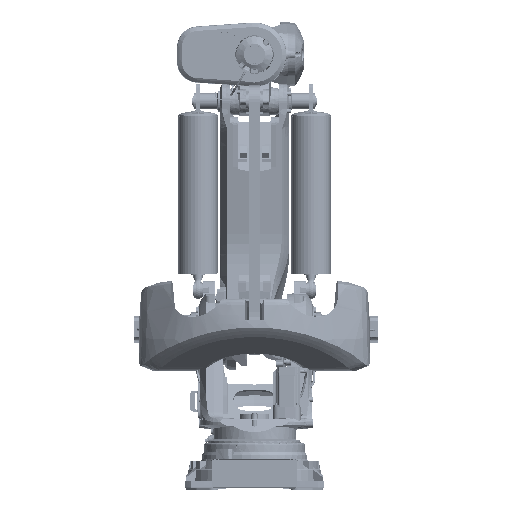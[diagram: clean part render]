
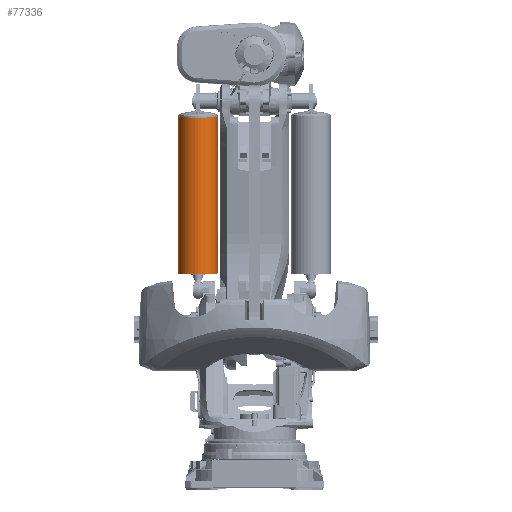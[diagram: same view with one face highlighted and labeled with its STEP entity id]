
A CAD part, left-side view. The second image highlights one B-rep face of the part: STEP entity #77336.
In plain terms, the highlighted cylindrical face has radius 130 mm (diameter 260 mm), a full revolution.
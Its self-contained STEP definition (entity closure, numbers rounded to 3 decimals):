
#18859=FACE_BOUND('',#24975,.T.);
#20097=FACE_OUTER_BOUND('',#24974,.T.);
#24974=EDGE_LOOP('',(#53272));
#24975=EDGE_LOOP('',(#53273));
#31083=CIRCLE('',#82334,130.);
#31084=CIRCLE('',#82335,130.);
#33947=VERTEX_POINT('',#112685);
#33948=VERTEX_POINT('',#112687);
#41773=EDGE_CURVE('',#33947,#33947,#31083,.T.);
#41774=EDGE_CURVE('',#33948,#33948,#31084,.T.);
#53272=ORIENTED_EDGE('',*,*,#41773,.F.);
#53273=ORIENTED_EDGE('',*,*,#41774,.T.);
#76264=CYLINDRICAL_SURFACE('',#82333,130.);
#77336=ADVANCED_FACE('',(#20097,#18859),#76264,.T.);
#82333=AXIS2_PLACEMENT_3D('',#112684,#90371,#90372);
#82334=AXIS2_PLACEMENT_3D('',#112686,#90373,#90374);
#82335=AXIS2_PLACEMENT_3D('',#112688,#90375,#90376);
#90371=DIRECTION('center_axis',(-0.046,0.,
0.999));
#90372=DIRECTION('ref_axis',(0.,1.,0.));
#90373=DIRECTION('center_axis',(0.046,0.,
-0.999));
#90374=DIRECTION('ref_axis',(0.,-1.,0.));
#90375=DIRECTION('center_axis',(0.046,0.,
-0.999));
#90376=DIRECTION('ref_axis',(0.,-1.,0.));
#112684=CARTESIAN_POINT('Origin',(472.181,375.,1437.191));
#112685=CARTESIAN_POINT('',(472.181,505.,1437.191));
#112686=CARTESIAN_POINT('Origin',(472.181,375.,1437.191));
#112687=CARTESIAN_POINT('',(424.675,505.,2477.607));
#112688=CARTESIAN_POINT('Origin',(424.675,375.,2477.607));
